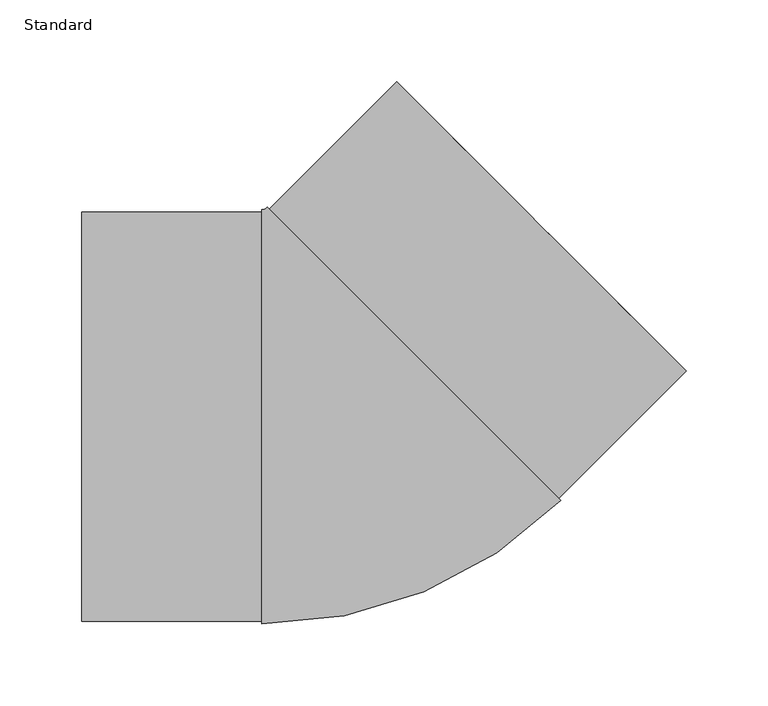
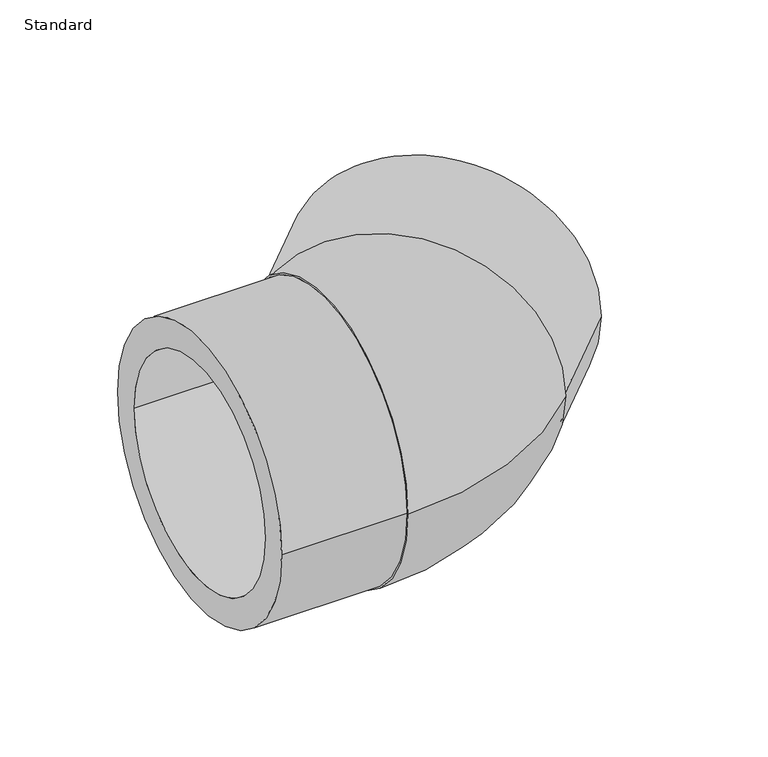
"""IFC4 building model written with IfcOpenShell, lengths in millimetres: pipe fitting geometry, EGB_VASEN_ PPR_Codo a tope 90 WXRB200_Codo a tope 45 WXRB220 : Standard."""

from ifc_helpers import new_model, si_unit, point, frame, origin, place, context, project, spatial, polyline, circle_curve, ellipse_curve, trimmed, source, transform, mapped, element, save
from ifc_brep_helpers import plane_surface, cylinder_surface, revolved_surface, advanced_brep


def standard_9c384180(model_context):
    return source(origin(), model_context, "Body", "AdvancedBrep", [
        advanced_brep(
        [(-165.0, -125.5, 0.0), (-165.0, 125.5, 0.0), (-165.0, -100.0, 0.0), (-165.0, 100.0, 0.0), (-54.6051224, -125.5, 0.0), (-54.6051224, 125.5, 0.0), (-54.6051224, -100.0, 0.0), (-54.6051224, 100.0, 0.0), (-54.6051224, -127.0, 0.0), (-54.6051224, 127.0, 0.0), (128.4142136, -51.1909089, 0.0), (-51.1909089, 128.4142136, 0.0), (127.3535534, -50.1302487, 0.0), (-50.1302487, 127.3535534, 0.0), (109.3223305, -32.0990258, 0.0), (-32.0990258, 109.3223305, 0.0), (205.4145199, 27.9307179, 0.0), (27.9307179, 205.4145199, 0.0), (187.383297, 45.9619408, 0.0), (45.9619408, 187.383297, 0.0)],
        [
            (0, 1, circle_curve(frame((-165.0, 0.0, 0.0), z_axis=(-1.0, 0.0, 0.0), x_axis=(0.0, 1.0, 0.0)), 125.5)),
            (1, 0, circle_curve(frame((-165.0, 0.0, 0.0), z_axis=(-1.0, 0.0, 0.0), x_axis=(0.0, 1.0, 0.0)), 125.5)),
            (2, 3, circle_curve(frame((-165.0, 0.0, 0.0), z_axis=(1.0, 0.0, 0.0), x_axis=(0.0, 1.0, 0.0)), 100.0)),
            (3, 2, circle_curve(frame((-165.0, 0.0, 0.0), z_axis=(1.0, 0.0, 0.0), x_axis=(0.0, 1.0, 0.0)), 100.0)),
            (0, 4),
            (4, 5, circle_curve(frame((-54.6051224, 0.0, 0.0), z_axis=(-1.0, 0.0, 0.0), x_axis=(0.0, 1.0, 0.0)), 125.5)),
            (5, 1),
            (5, 4, circle_curve(frame((-54.6051224, 0.0, 0.0), z_axis=(-1.0, 0.0, 0.0), x_axis=(0.0, 1.0, 0.0)), 125.5)),
            (2, 6),
            (6, 7, circle_curve(frame((-54.6051224, 0.0, 0.0), z_axis=(1.0, 0.0, 0.0), x_axis=(0.0, 1.0, 0.0)), 100.0)),
            (7, 3),
            (7, 6, circle_curve(frame((-54.6051224, 0.0, 0.0), z_axis=(1.0, 0.0, 0.0), x_axis=(0.0, 1.0, 0.0)), 100.0)),
            (8, 9, circle_curve(frame((-54.6051224, 0.0, 0.0), z_axis=(-1.0, 0.0, 0.0), x_axis=(0.0, 1.0, 0.0)), 127.0)),
            (9, 8, circle_curve(frame((-54.6051224, 0.0, 0.0), z_axis=(-1.0, 0.0, 0.0), x_axis=(0.0, 1.0, 0.0)), 127.0)),
            (10, 11, circle_curve(frame((38.6116524, 38.6116524, 0.0), z_axis=(0.7071067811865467, 0.7071067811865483, 0.0), x_axis=(-0.7071067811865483, 0.7071067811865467, 0.0)), 127.0)),
            (11, 10, circle_curve(frame((38.6116524, 38.6116524, 0.0), z_axis=(0.7071067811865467, 0.7071067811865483, 0.0), x_axis=(-0.7071067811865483, 0.7071067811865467, 0.0)), 127.0)),
            (12, 13, circle_curve(frame((38.6116524, 38.6116524, 0.0), z_axis=(-0.7071067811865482, -0.7071067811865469, 0.0), x_axis=(-0.7071067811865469, 0.7071067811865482, 0.0)), 125.5)),
            (13, 12, circle_curve(frame((38.6116524, 38.6116524, 0.0), z_axis=(-0.7071067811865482, -0.7071067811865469, 0.0), x_axis=(-0.7071067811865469, 0.7071067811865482, 0.0)), 125.5)),
            (14, 15, circle_curve(frame((38.6116524, 38.6116524, 0.0), z_axis=(0.7071067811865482, 0.7071067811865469, 0.0), x_axis=(-0.7071067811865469, 0.7071067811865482, 0.0)), 100.0)),
            (15, 14, circle_curve(frame((38.6116524, 38.6116524, 0.0), z_axis=(0.7071067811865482, 0.7071067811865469, 0.0), x_axis=(-0.7071067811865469, 0.7071067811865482, 0.0)), 100.0)),
            (8, 10, circle_curve(frame((-54.6051224, 131.8284271, 0.0), z_axis=(0.0, 0.0, 1.0), x_axis=(0.0, -1.0, 0.0)), 258.8284271)),
            (11, 9, circle_curve(frame((-54.6051224, 131.8284271, 0.0), z_axis=(0.0, 0.0, -1.0), x_axis=(0.0, -1.0, 0.0)), 4.8284271)),
            (16, 17, circle_curve(frame((116.6726189, 116.6726189, 0.0), z_axis=(0.7071067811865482, 0.7071067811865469, 0.0), x_axis=(-0.7071067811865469, 0.7071067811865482, 0.0)), 125.5)),
            (17, 16, circle_curve(frame((116.6726189, 116.6726189, 0.0), z_axis=(0.7071067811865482, 0.7071067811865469, 0.0), x_axis=(-0.7071067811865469, 0.7071067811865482, 0.0)), 125.5)),
            (18, 19, circle_curve(frame((116.6726189, 116.6726189, 0.0), z_axis=(-0.7071067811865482, -0.7071067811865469, 0.0), x_axis=(-0.7071067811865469, 0.7071067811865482, 0.0)), 100.0)),
            (19, 18, circle_curve(frame((116.6726189, 116.6726189, 0.0), z_axis=(-0.7071067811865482, -0.7071067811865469, 0.0), x_axis=(-0.7071067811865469, 0.7071067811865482, 0.0)), 100.0)),
            (17, 13),
            (12, 16),
            (19, 15),
            (14, 18),
        ],
        [
            plane_surface(frame((-165.0, 0.0, 0.0), z_axis=(-1.0, 0.0, 0.0), x_axis=(0.0, 0.0, 1.0))),
            cylinder_surface(frame((-165.0, 0.0, 0.0), z_axis=(-1.0, 0.0, 0.0), x_axis=(0.0, 1.0, 0.0)), 125.5),
            revolved_surface(polyline([(-54.6051224, 100.0, 0.0), (-165.0, 100.0, 0.0)]), (-165.0, 0.0, 0.0), (1.0, 0.0, 0.0)),
            plane_surface(frame((-54.6051224, 0.0, 0.0), z_axis=(-1.0, 0.0, 0.0), x_axis=(0.0, 0.0, 1.0))),
            plane_surface(frame((38.6116524, 38.6116524, 0.0), z_axis=(0.7071067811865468, 0.7071067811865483, 0.0), x_axis=(0.0, 0.0, 1.0))),
            revolved_surface(trimmed(ellipse_curve(frame((-54.6051224, 0.0, 0.0), z_axis=(-1.0, 0.0, 0.0), x_axis=(0.0, 1.0, 0.0)), 127.0, 127.0), [point((-54.6051224, -127.0, 0.0))], [point((-54.6051224, 127.0, 0.0))], True, "CARTESIAN"), (-54.6051224, 131.8284271, 0.0), (0.0, 0.0, 1.0)),
            revolved_surface(trimmed(ellipse_curve(frame((-54.6051224, 0.0, 0.0), z_axis=(-1.0, 0.0, 0.0), x_axis=(0.0, 1.0, 0.0)), 127.0, 127.0), [point((-54.6051224, 127.0, 0.0))], [point((-54.6051224, -127.0, 0.0))], True, "CARTESIAN"), (-54.6051224, 131.8284271, 0.0), (0.0, 0.0, 1.0)),
            plane_surface(frame((116.6726189, 116.6726189, 0.0), z_axis=(0.7071067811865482, 0.7071067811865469, 0.0), x_axis=(0.0, 0.0, 1.0))),
            cylinder_surface(frame((38.6116524, 38.6116524, 0.0), z_axis=(-0.7071067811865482, -0.7071067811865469, 0.0), x_axis=(-0.7071067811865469, 0.7071067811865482, 0.0)), 125.5),
            revolved_surface(polyline([(45.96194078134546, 187.38329701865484, 0.0), (-32.09902576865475, 109.32233046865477, 0.0)]), (38.6116524, 38.6116524, 0.0), (0.7071067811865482, 0.7071067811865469, 0.0)),
        ],
        [
            (0, [[1, 2], [3, 4]]),
            (1, [[-1, 5, 6, 7]]),
            (1, [[-2, -7, 8, -5]]),
            (2, [[-3, 9, 10, 11]]),
            (2, [[-4, -11, 12, -9]]),
            (3, [[-10, -12]]),
            (3, [[13, 14], [-6, -8]]),
            (4, [[15, 16], [17, 18]]),
            (4, [[19, 20]]),
            (5, [[-13, 21, -16, 22]]),
            (6, [[-14, -22, -15, -21]]),
            (7, [[23, 24], [25, 26]]),
            (8, [[-24, 27, -17, 28]]),
            (8, [[-23, -28, -18, -27]]),
            (9, [[-26, 29, -19, 30]]),
            (9, [[-25, -30, -20, -29]]),
        ],
    ),
    ])


if __name__ == "__main__":
    model = new_model("IFC4")
    model_context = context("Model", 3, world=origin())
    ifc_project = project(units=[si_unit("LENGTHUNIT", "METRE", prefix="MILLI")], contexts=[model_context])
    site = spatial("IfcSite", under=ifc_project)
    building = spatial("IfcBuilding", under=site)
    placement = place(None, origin())
    standard_shape = standard_9c384180(model_context)
    element("IfcPipeFitting", 1, ObjectType="EGB_VASEN_ PPR_Codo a tope 90 WXRB200_Codo a tope 45 WXRB220 : Standard", at=placement, inside=building, context=model_context, shape_type="MappedRepresentation", body=[
        mapped(standard_shape, transform((0.0, 0.0, 0.0), x_axis=(1.0, 0.0, 0.0), y_axis=(0.0, 1.0, 0.0), z_axis=(0.0, 0.0, 1.0))),
    ])
    save(model, "model.ifc")
